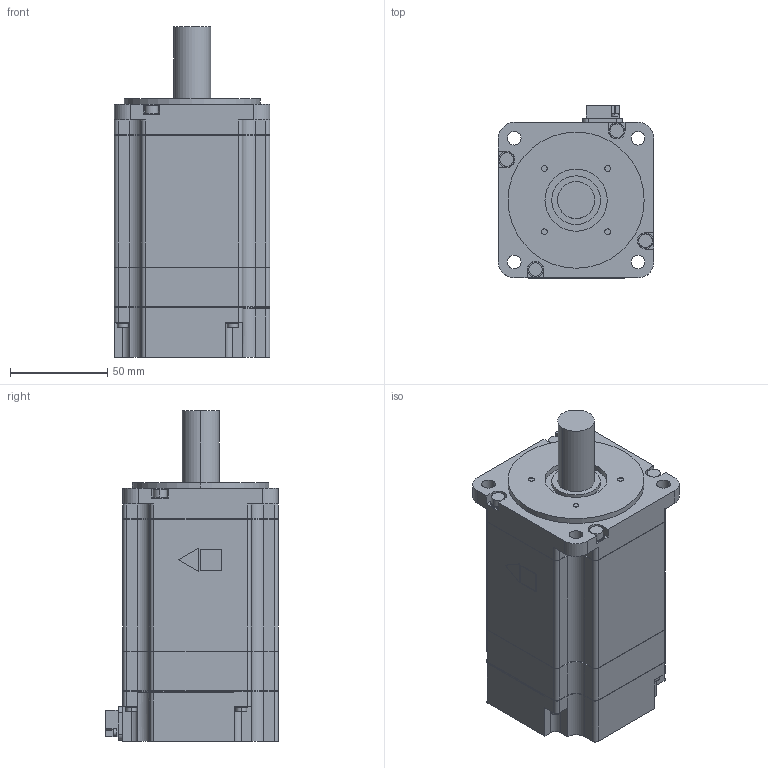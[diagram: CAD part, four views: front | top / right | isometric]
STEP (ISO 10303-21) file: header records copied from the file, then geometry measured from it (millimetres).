
FILE_DESCRIPTION (( 'STEP AP203' ), '1' );
FILE_NAME ('sgm7a_10a6a21.STEP', '2016-11-12T04:45:16', ( '匠エンジニアリング山之内' ), ( 'TAKUMI-Engniaring' ), 'SwSTEP 2.0', 'SolidWorks 2006303', '' );
FILE_SCHEMA (( 'CONFIG_CONTROL_DESIGN' ));
Length unit declared in the file: millimetre
Products named in the file (1): sgm7a_10a6a21
Bounding box: 80.1 x 88.8 x 170.1 mm (x, y, z)
Volume: 753781 mm3; surface area: 60087 mm2
Topology: 1 solids, 1 shells, 419 faces, 1095 edges, 726 vertices
Faces by surface type: plane 234, cylinder 185
Entity records: 13042 total; most frequent: DIRECTION 2311, CARTESIAN_POINT 2241, ORIENTED_EDGE 2190, EDGE_CURVE 1095, AXIS2_PLACEMENT_3D 796, VERTEX_POINT 726, VECTOR 719, LINE 719
